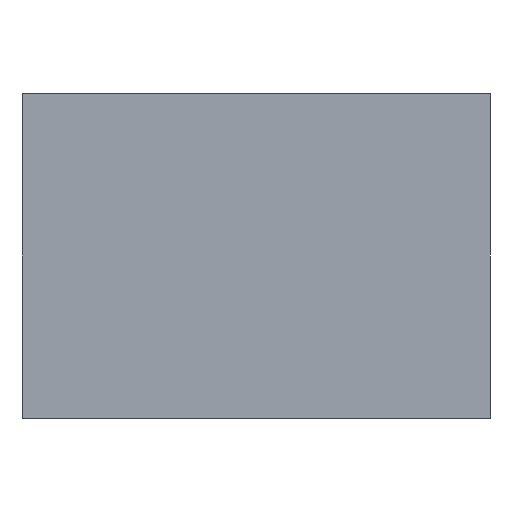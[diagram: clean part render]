
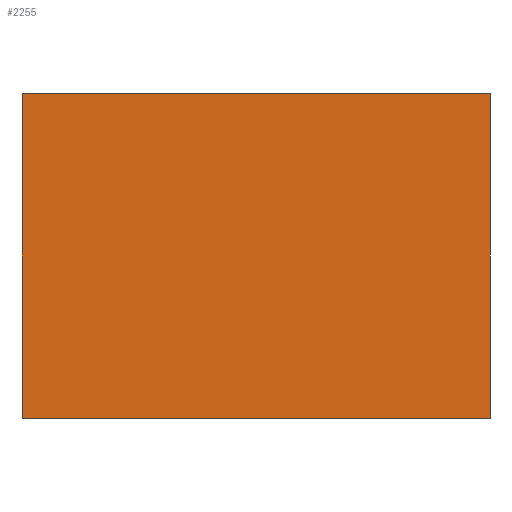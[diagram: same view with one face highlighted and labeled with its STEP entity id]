
A CAD part, left-side view. The second image highlights one B-rep face of the part: STEP entity #2255.
In plain terms, the highlighted planar face has unit normal (-1, 0, 0).
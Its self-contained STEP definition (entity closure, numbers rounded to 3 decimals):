
#84 = CARTESIAN_POINT ( 'NONE',  ( -140., 35.5, 49.3 ) ) ;
#125 = DIRECTION ( 'NONE',  ( 0., -1., 0. ) ) ;
#446 = ORIENTED_EDGE ( 'NONE', *, *, #2309, .F. ) ;
#814 = DIRECTION ( 'NONE',  ( 1., 0., 0. ) ) ;
#949 = ORIENTED_EDGE ( 'NONE', *, *, #3281, .F. ) ;
#1023 = VERTEX_POINT ( 'NONE', #84 ) ;
#1092 = LINE ( 'NONE', #2899, #1555 ) ;
#1115 = PLANE ( 'NONE',  #3318 ) ;
#1138 = EDGE_LOOP ( 'NONE', ( #3253, #949, #446, #2229 ) ) ;
#1281 = EDGE_CURVE ( 'NONE', #1023, #2409, #3367, .T. ) ;
#1319 = EDGE_CURVE ( 'NONE', #2409, #2304, #2761, .T. ) ;
#1372 = DIRECTION ( 'NONE',  ( 0., -1., 0. ) ) ;
#1555 = VECTOR ( 'NONE', #125, 1000. ) ;
#1980 = CARTESIAN_POINT ( 'NONE',  ( -140., 35.5, 0. ) ) ;
#2229 = ORIENTED_EDGE ( 'NONE', *, *, #1281, .T. ) ;
#2255 = ADVANCED_FACE ( 'NONE', ( #3035 ), #1115, .F. ) ;
#2304 = VERTEX_POINT ( 'NONE', #3459 ) ;
#2309 = EDGE_CURVE ( 'NONE', #1023, #2931, #1092, .T. ) ;
#2409 = VERTEX_POINT ( 'NONE', #1980 ) ;
#2426 = VECTOR ( 'NONE', #3349, 1000. ) ;
#2506 = DIRECTION ( 'NONE',  ( 0., 0., -1. ) ) ;
#2539 = CARTESIAN_POINT ( 'NONE',  ( -140., -35.5, 0. ) ) ;
#2713 = VECTOR ( 'NONE', #3368, 1000. ) ;
#2761 = LINE ( 'NONE', #2539, #2883 ) ;
#2810 = CARTESIAN_POINT ( 'NONE',  ( -140., 35.5, 49.3 ) ) ;
#2883 = VECTOR ( 'NONE', #1372, 1000. ) ;
#2899 = CARTESIAN_POINT ( 'NONE',  ( -140., -35.5, 49.3 ) ) ;
#2931 = VERTEX_POINT ( 'NONE', #2968 ) ;
#2968 = CARTESIAN_POINT ( 'NONE',  ( -140., -35.5, 49.3 ) ) ;
#3035 = FACE_OUTER_BOUND ( 'NONE', #1138, .T. ) ;
#3042 = CARTESIAN_POINT ( 'NONE',  ( -140., -35.5, 49.3 ) ) ;
#3253 = ORIENTED_EDGE ( 'NONE', *, *, #1319, .T. ) ;
#3281 = EDGE_CURVE ( 'NONE', #2931, #2304, #3395, .T. ) ;
#3318 = AXIS2_PLACEMENT_3D ( 'NONE', #3042, #814, #2506 ) ;
#3325 = CARTESIAN_POINT ( 'NONE',  ( -140., -35.5, 49.3 ) ) ;
#3349 = DIRECTION ( 'NONE',  ( 0., 0., -1. ) ) ;
#3367 = LINE ( 'NONE', #2810, #2713 ) ;
#3368 = DIRECTION ( 'NONE',  ( 0., 0., -1. ) ) ;
#3395 = LINE ( 'NONE', #3325, #2426 ) ;
#3459 = CARTESIAN_POINT ( 'NONE',  ( -140., -35.5, 0. ) ) ;
